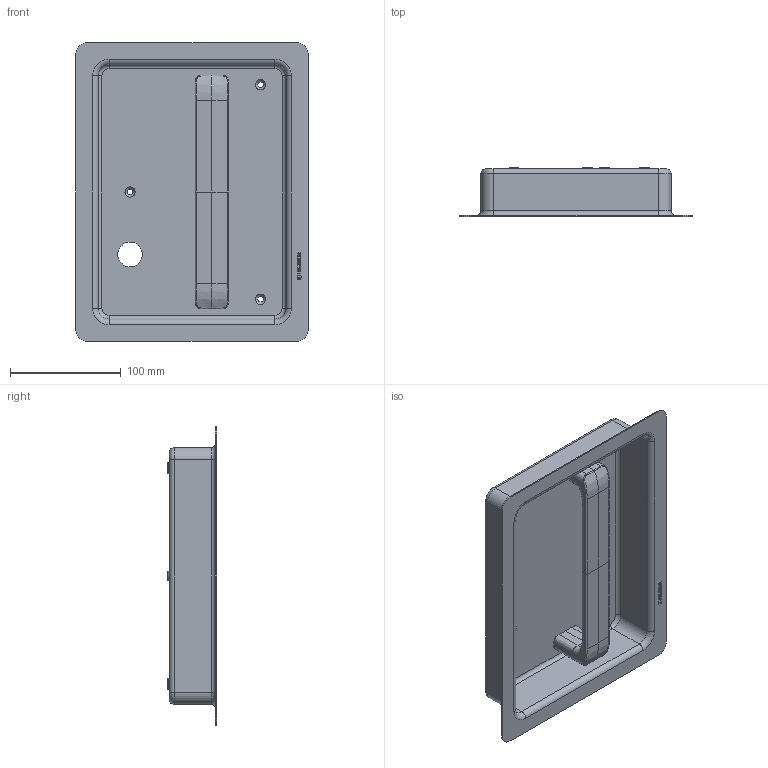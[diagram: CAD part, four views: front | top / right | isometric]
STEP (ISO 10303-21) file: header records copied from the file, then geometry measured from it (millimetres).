
FILE_DESCRIPTION(/* description */ (''),/* implementation_level */ '2;1');
FILE_NAME(/* name */ 'C:\ADSK_DMS_WS\Designs\Vorschläge\Loc Schalen\Heusser Muschel\Heusser-Muschel mit D6\Heusser-Muschel S6.42 mit D6\S6.42.D6.278R..stp',/* time_stamp */ '2025-04-11T11:32:03+02:00',/* author */ ('gm'),/* organization */ (''),/* preprocessor_version */ 'ST-DEVELOPER v17.2',/* originating_system */ 'Autodesk Inventor 2019',/* authorisation */ '');
FILE_SCHEMA (('AUTOMOTIVE_DESIGN { 1 0 10303 214 3 1 1 }'));
Length unit declared in the file: millimetre
Products named in the file (4): S6.42.D6.278R.; Schale S6.42.R.D6; D6; M5x10 zu D6
Assembly tree (6 placements, depth 2):
  S6.42.D6.278R.
    Schale S6.42.R.D6
    D6
    M5x10 zu D6  x4
Bounding box: 210 x 44.5 x 270 mm (x, y, z)
Volume: 168317 mm3; surface area: 196157.4 mm2
Topology: 6 solids, 6 shells, 386 faces, 989 edges, 634 vertices
Faces by surface type: plane 125, bspline 98, cylinder 93, cone 50, torus 20
Full cylindrical faces by diameter (mm): 4.134 x4, 5 x4, 5.5 x4, 9 x4, 22.3 x1
Entity records: 13500 total; most frequent: CARTESIAN_POINT 6466, ORIENTED_EDGE 1554, DIRECTION 1168, EDGE_CURVE 777, VERTEX_POINT 499, LINE 418, VECTOR 418, AXIS2_PLACEMENT_3D 375
